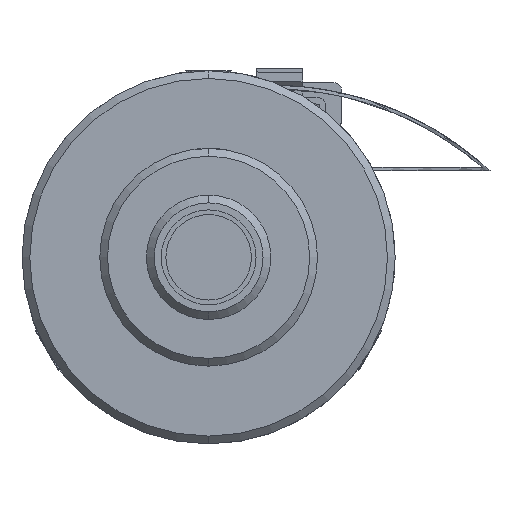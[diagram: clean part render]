
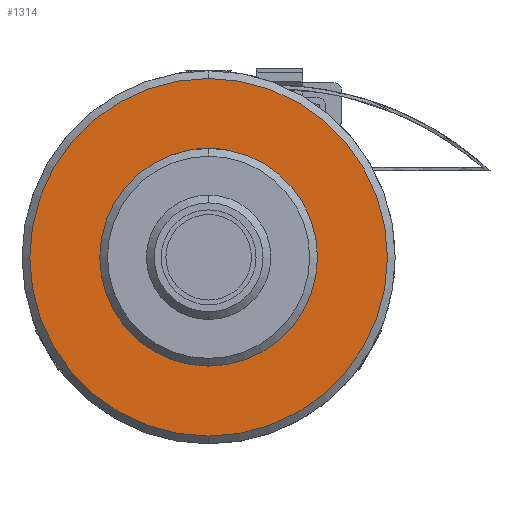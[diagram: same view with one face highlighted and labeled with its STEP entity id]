
A CAD part, left-side view. The second image highlights one B-rep face of the part: STEP entity #1314.
In plain terms, the highlighted planar face has unit normal (-1, 0, 0) as drawn and (0, 1, 0) by its records, which use the part's own axes.
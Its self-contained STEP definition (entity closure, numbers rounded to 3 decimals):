
#1314=ADVANCED_FACE('',(#2604,#2605),#2606,.T.);
#2604=FACE_OUTER_BOUND('',#4692,.T.);
#2605=FACE_BOUND('',#4693,.T.);
#2606=PLANE('',#4694);
#4692=EDGE_LOOP('',(#8551,#8552));
#4693=EDGE_LOOP('',(#8553,#8554));
#4694=AXIS2_PLACEMENT_3D('',#8555,#8556,#8557);
#8551=ORIENTED_EDGE('',*,*,#11134,.T.);
#8552=ORIENTED_EDGE('',*,*,#11048,.F.);
#8553=ORIENTED_EDGE('',*,*,#11070,.F.);
#8554=ORIENTED_EDGE('',*,*,#11135,.T.);
#8555=CARTESIAN_POINT('',(12.0,16.0,0.0));
#8556=DIRECTION('',(-0.0,1.0,0.0));
#8557=DIRECTION('',(1.0,0.0,0.0));
#11048=EDGE_CURVE('',#13312,#13313,#13314,.T.);
#11070=EDGE_CURVE('',#13348,#13350,#13351,.T.);
#11134=EDGE_CURVE('',#13312,#13313,#13435,.T.);
#11135=EDGE_CURVE('',#13348,#13350,#13436,.T.);
#13312=VERTEX_POINT('',#17210);
#13313=VERTEX_POINT('',#17211);
#13314=CIRCLE('',#17212,11.5);
#13348=VERTEX_POINT('',#17262);
#13350=VERTEX_POINT('',#17265);
#13351=CIRCLE('',#17266,7.0);
#13435=CIRCLE('',#17473,11.5);
#13436=CIRCLE('',#17474,7.0);
#17210=CARTESIAN_POINT('',(0.0,16.0,-11.5));
#17211=CARTESIAN_POINT('',(0.,16.0,11.5));
#17212=AXIS2_PLACEMENT_3D('',#22199,#22200,#22201);
#17262=CARTESIAN_POINT('',(0.,16.0,7.0));
#17265=CARTESIAN_POINT('',(0.0,16.0,-7.0));
#17266=AXIS2_PLACEMENT_3D('',#22230,#22231,#22232);
#17473=AXIS2_PLACEMENT_3D('',#22312,#22313,#22314);
#17474=AXIS2_PLACEMENT_3D('',#22315,#22316,#22317);
#22199=CARTESIAN_POINT('',(0.,16.0,0.0));
#22200=DIRECTION('',(0.0,-1.0,0.0));
#22201=DIRECTION('',(0.,0.0,-1.0));
#22230=CARTESIAN_POINT('',(0.,16.0,0.));
#22231=DIRECTION('',(-0.0,1.0,0.0));
#22232=DIRECTION('',(0.,0.0,1.0));
#22312=CARTESIAN_POINT('',(0.,16.0,0.0));
#22313=DIRECTION('',(0.0,1.0,0.0));
#22314=DIRECTION('',(0.,0.0,-1.0));
#22315=CARTESIAN_POINT('',(0.,16.0,0.));
#22316=DIRECTION('',(0.0,-1.0,0.0));
#22317=DIRECTION('',(0.,0.0,1.0));
